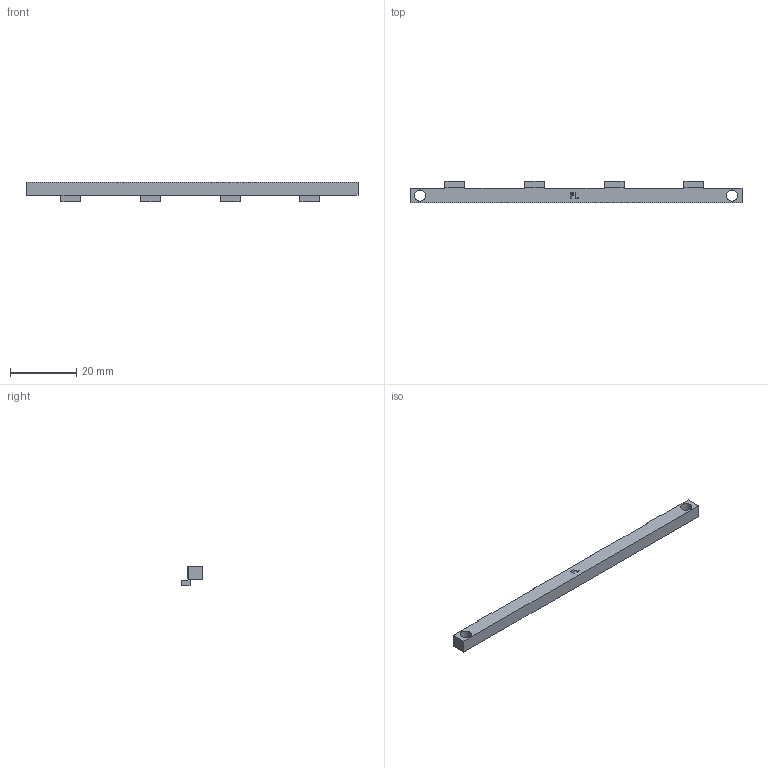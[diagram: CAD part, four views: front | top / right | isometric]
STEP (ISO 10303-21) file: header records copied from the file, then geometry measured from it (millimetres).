
FILE_DESCRIPTION(('Open CASCADE Model'),'2;1');
FILE_NAME('Open CASCADE Shape Model','2026-10-07T10:51:43',('Author'),( 'Open CASCADE'),'Open CASCADE STEP processor 7.8','Open CASCADE 7.8' ,'Unknown');
FILE_SCHEMA(('AUTOMOTIVE_DESIGN { 1 0 10303 214 1 1 1 1 }'));
Length unit declared in the file: millimetre
Products named in the file (1): Open CASCADE STEP translator 7.8 13
Bounding box: 100 x 6.6 x 5.95 mm (x, y, z)
Volume: 1822.6 mm3; surface area: 2016.4 mm2
Topology: 1 solids, 1 shells, 58 faces, 162 edges, 108 vertices
Faces by surface type: plane 56, cylinder 2
Full cylindrical faces by diameter (mm): 3.4 x2
Entity records: 3890 total; most frequent: CARTESIAN_POINT 717, DIRECTION 544, LINE 414, VECTOR 414, ORIENTED_EDGE 324, PCURVE 324, DEFINITIONAL_REPRESENTATION 324, EDGE_CURVE 162
